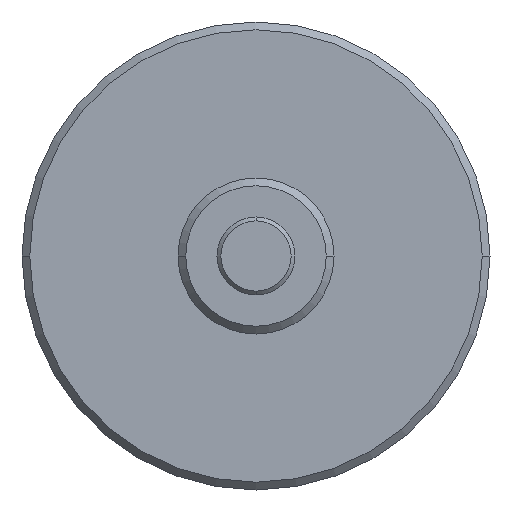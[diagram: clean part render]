
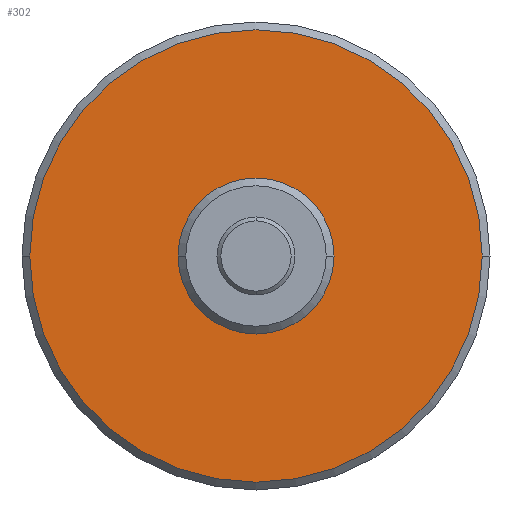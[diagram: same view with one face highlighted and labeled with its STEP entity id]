
A CAD part, left-side view. The second image highlights one B-rep face of the part: STEP entity #302.
In plain terms, the highlighted planar face has unit normal (-1, 0, 0).
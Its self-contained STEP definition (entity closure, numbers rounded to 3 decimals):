
#56=CARTESIAN_POINT('',(19.5,0.,0.));
#57=DIRECTION('',(1.,0.,0.));
#58=DIRECTION('',(0.,-1.,0.));
#59=AXIS2_PLACEMENT_3D('',#56,#57,#58);
#70=CARTESIAN_POINT('',(19.5,0.,0.));
#71=DIRECTION('',(1.,0.,0.));
#72=DIRECTION('',(0.,1.,0.));
#73=AXIS2_PLACEMENT_3D('',#70,#71,#72);
#75=CARTESIAN_POINT('',(19.5,0.,0.));
#76=DIRECTION('',(-1.,0.,0.));
#77=DIRECTION('',(0.,1.,0.));
#78=AXIS2_PLACEMENT_3D('',#75,#76,#77);
#80=CARTESIAN_POINT('',(19.5,0.,
0.));
#81=DIRECTION('',(-1.,0.,0.));
#82=DIRECTION('',(0.,-1.,0.));
#83=AXIS2_PLACEMENT_3D('',#80,#81,#82);
#147=CARTESIAN_POINT('',(19.5,-10.,0.));
#148=CARTESIAN_POINT('',(19.5,10.,0.));
#149=VERTEX_POINT('',#147);
#150=VERTEX_POINT('',#148);
#159=CARTESIAN_POINT('',(19.5,29.,0.));
#160=CARTESIAN_POINT('',(19.5,-29.,0.));
#161=VERTEX_POINT('',#159);
#162=VERTEX_POINT('',#160);
#287=CARTESIAN_POINT('',(19.5,0.,0.));
#288=DIRECTION('',(1.,0.,0.));
#289=DIRECTION('',(0.,-1.,0.));
#290=AXIS2_PLACEMENT_3D('',#287,#288,#289);
#291=PLANE('',#290);
#293=ORIENTED_EDGE('',*,*,#292,.F.);
#295=ORIENTED_EDGE('',*,*,#294,.F.);
#296=EDGE_LOOP('',(#293,#295));
#297=FACE_OUTER_BOUND('',#296,.F.);
#298=ORIENTED_EDGE('',*,*,#267,.F.);
#299=ORIENTED_EDGE('',*,*,#281,.F.);
#300=EDGE_LOOP('',(#298,#299));
#301=FACE_BOUND('',#300,.F.);
#302=ADVANCED_FACE('',(#297,#301),#291,.F.);
#60=CIRCLE('',#59,10.);
#74=CIRCLE('',#73,10.);
#79=CIRCLE('',#78,29.);
#84=CIRCLE('',#83,29.);
#267=EDGE_CURVE('',#149,#150,#60,.T.);
#281=EDGE_CURVE('',#150,#149,#74,.T.);
#292=EDGE_CURVE('',#161,#162,#79,.T.);
#294=EDGE_CURVE('',#162,#161,#84,.T.);
